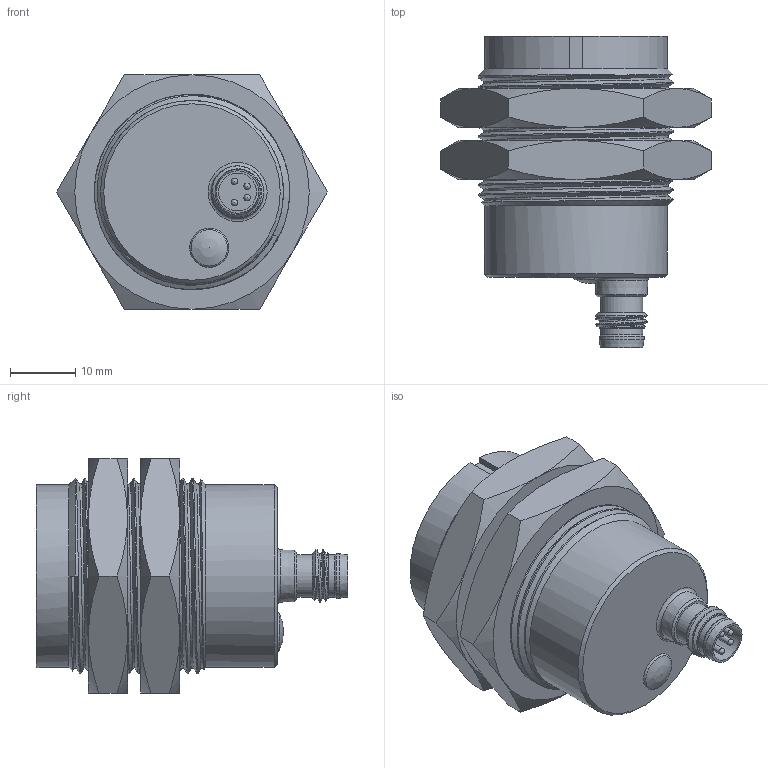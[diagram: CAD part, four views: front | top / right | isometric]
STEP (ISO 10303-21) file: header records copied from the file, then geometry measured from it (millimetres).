
FILE_DESCRIPTION(/* description */ ('Katalogmodell Elobau'),/* implementation_level */ '2;1');
FILE_NAME(/* name */ 'Katalogdaten.stp',/* time_stamp */ '2014-09-11T15:38:10+02:00',/* author */ ('Elobau GmbH & Co. KG'),/* organization */ ('Elobau GmbH & Co. KG'),/* preprocessor_version */ 'ST-DEVELOPER v15',/* originating_system */ 'SIEMENS PLM Software NX 8.5',/* authorisation */ '');
FILE_SCHEMA (('AUTOMOTIVE_DESIGN { 1 0 10303 214 3 1 1 1 }'));
Length unit declared in the file: millimetre
Products named in the file (1): 171271A0E_B
Bounding box: 41.57 x 47.8 x 36 mm (x, y, z)
Volume: 37399.1 mm3; surface area: 11945.7 mm2
Topology: 3 solids, 3 shells, 93 faces, 212 edges, 130 vertices
Faces by surface type: plane 35, cone 33, cylinder 14, bspline 5, sphere 5, torus 1
Full cylindrical faces by diameter (mm): 0.98 x4, 5.8 x1, 6.5 x2, 6.9 x1, 28.1 x1
Entity records: 7297 total; most frequent: CARTESIAN_POINT 5316, ORIENTED_EDGE 346, DIRECTION 346, EDGE_CURVE 173, AXIS2_PLACEMENT_3D 153, EDGE_LOOP 122, VERTEX_POINT 115, ADVANCED_FACE 93
